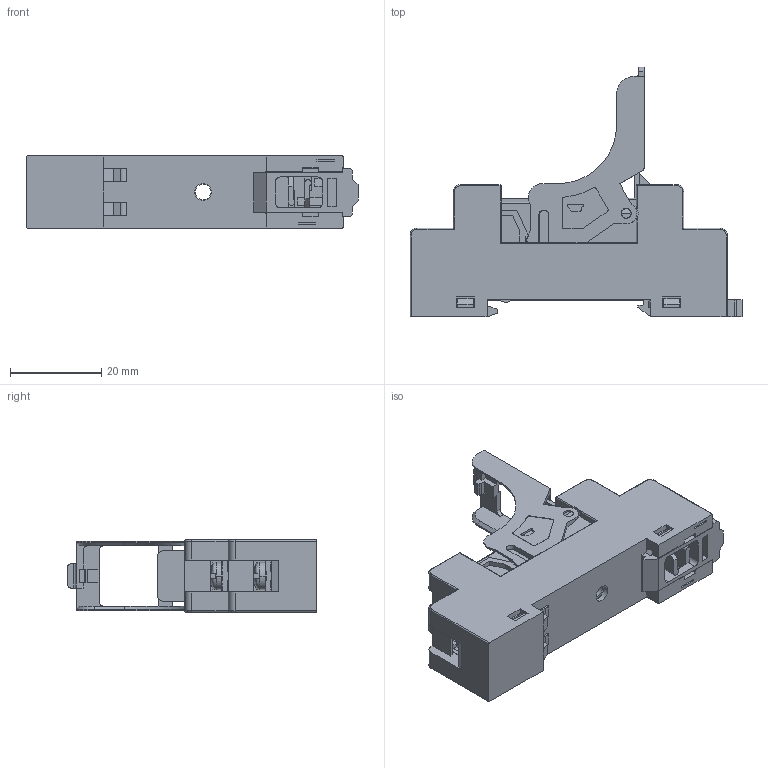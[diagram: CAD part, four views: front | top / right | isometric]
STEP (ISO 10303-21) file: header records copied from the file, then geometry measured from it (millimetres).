
FILE_DESCRIPTION (( 'STEP AP203' ), '1' );
FILE_NAME ('SRT05-ES 俋倛.STEP', '2023-01-12T02:37:52', ( '' ), ( '' ), 'SwSTEP 2.0', 'SolidWorks 2018', '' );
FILE_SCHEMA (( 'CONFIG_CONTROL_DESIGN' ));
Length unit declared in the file: millimetre
Products named in the file (1): SRT05-ES 俋倛
Bounding box: 72.85 x 54.8 x 15.8 mm (x, y, z)
Volume: 22846.3 mm3; surface area: 12717.2 mm2
Topology: 1 solids, 12 shells, 1401 faces, 3845 edges, 2471 vertices
Faces by surface type: plane 979, cylinder 269, cone 89, torus 48, bspline 12, sphere 4
Entity records: 47501 total; most frequent: CARTESIAN_POINT 12295, ORIENTED_EDGE 7662, DIRECTION 6872, EDGE_CURVE 3831, VECTOR 2668, LINE 2668, VERTEX_POINT 2471, AXIS2_PLACEMENT_3D 2102
